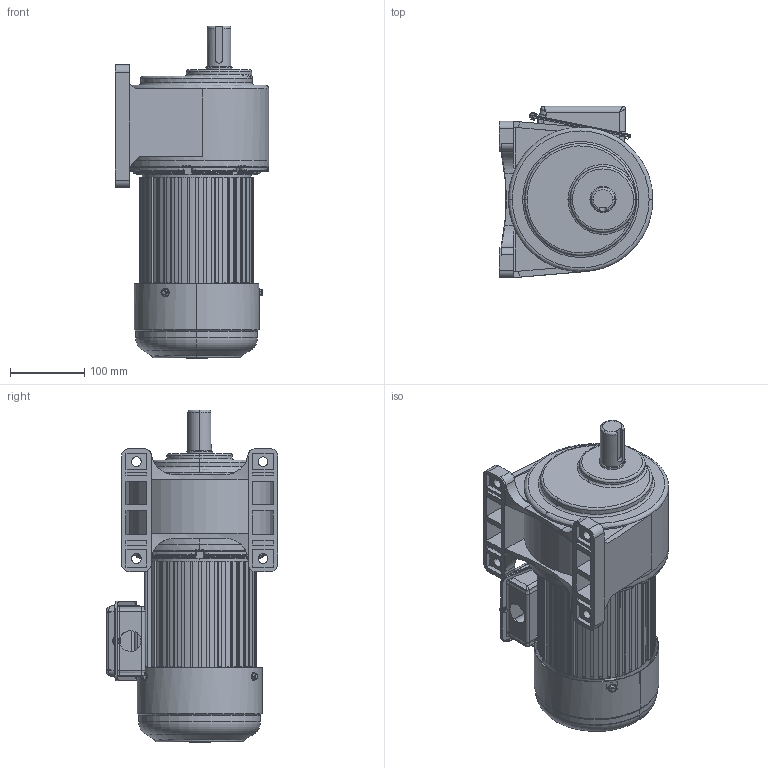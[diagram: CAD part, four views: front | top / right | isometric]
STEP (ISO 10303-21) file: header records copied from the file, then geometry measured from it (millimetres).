
FILE_DESCRIPTION (( 'STEP AP203' ), '1' );
FILE_NAME ('单相750W4#卧式.STEP', '2015-10-31T07:50:12', ( '微软中国' ), ( '微软用户' ), 'SwSTEP 2.0', 'SolidWorks 2009', '' );
FILE_SCHEMA (( 'CONFIG_CONTROL_DESIGN' ));
Length unit declared in the file: millimetre
Products named in the file (11): 等眈750W4#拏宒; 等眈 瑞欶400W; 等眈諉盄碟窒璃; 4#拏宒眊极; 等眈750W; 鞠褒蹟邡_GB_FASTENER_BOLT_HFBB M5X10-N; 棠憤迖殤400W; 等眈諉盄碟裔; 等眈諉盄碟釱; Cross recessed pan head screws GB_GB_CROSS_SCREWS_TYPE1 M5X6-6  H type-N; 750W儂褲
Assembly tree (12 placements, depth 4):
  等眈750W4#拏宒
    4#拏宒眊极
    等眈750W
      750W儂褲
      鞠褒蹟邡_GB_FASTENER_BOLT_HFBB M5X10-N  x3
      等眈諉盄碟窒璃
        等眈諉盄碟釱
        Cross recessed pan head screws GB_GB_CROSS_SCREWS_TYPE1 M5X6-6  H type-N
        等眈諉盄碟裔
      等眈 瑞欶400W
      棠憤迖殤400W
Bounding box: 206.5 x 230.59 x 446 mm (x, y, z)
Volume: 4932098.6 mm3; surface area: 746718.3 mm2
Topology: 10 solids, 10 shells, 1931 faces, 5223 edges, 3257 vertices
Faces by surface type: plane 839, cylinder 543, bspline 418, torus 99, cone 30, sphere 2
Entity records: 80697 total; most frequent: CARTESIAN_POINT 35161, ORIENTED_EDGE 10028, DIRECTION 8173, EDGE_CURVE 5014, VERTEX_POINT 3197, AXIS2_PLACEMENT_3D 2813, VECTOR 2547, LINE 2547
